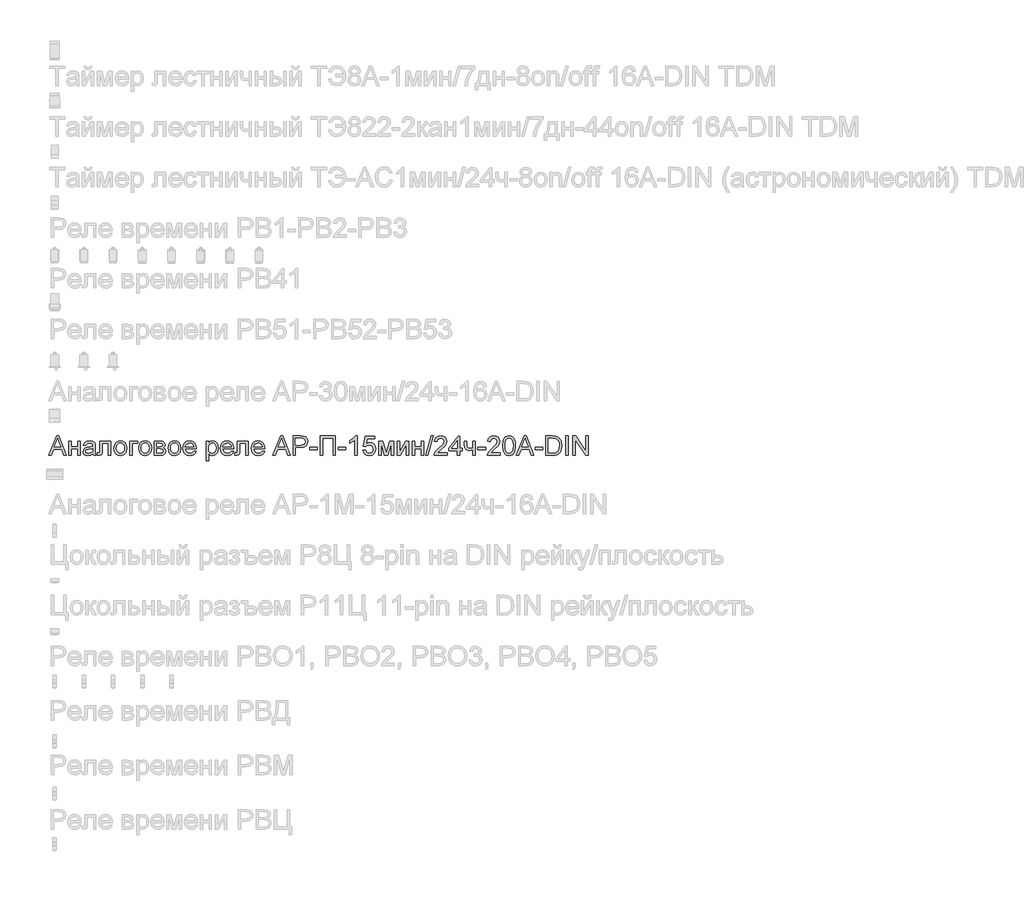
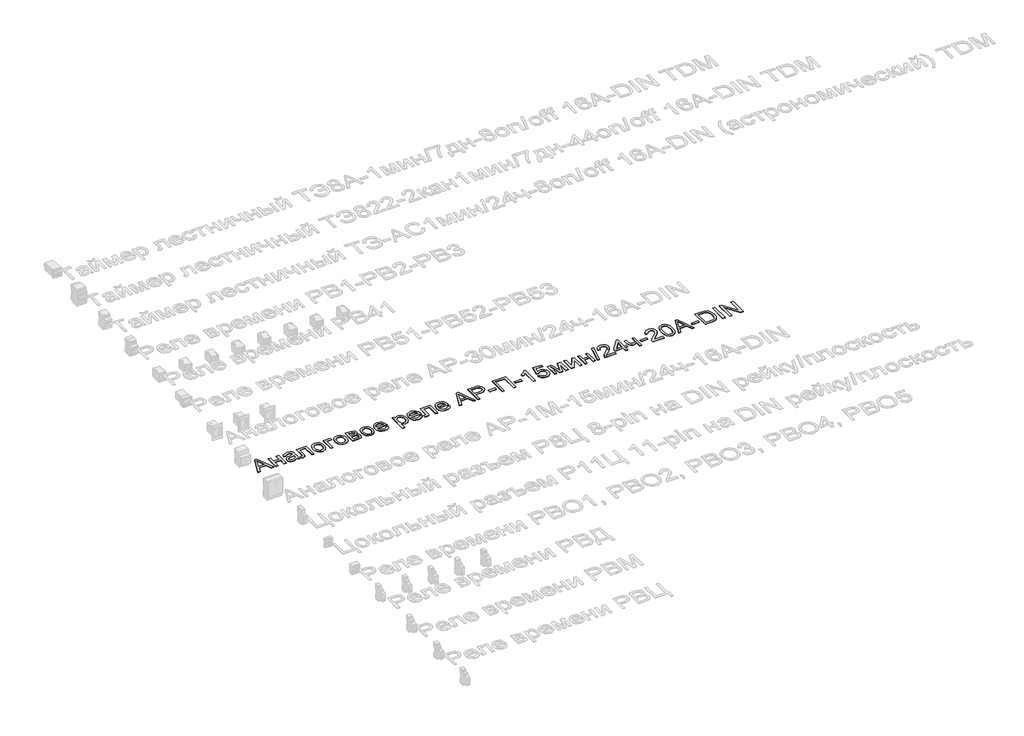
# One storey, part 24 of 34: 1 proxy.
"""IFC4 building model written with IfcOpenShell, lengths in millimetres."""

from ifc_helpers import new_model, si_unit, frame, origin, place, context, project, spatial, polyline, outline, extrude, element, save

model = new_model("IFC4")

# Units and contexts
model_context = context("Model", 3, world=origin())
ifc_project = project(units=[si_unit("LENGTHUNIT", "METRE", prefix="MILLI")], contexts=[model_context])

# Site, building, storey
site = spatial("IfcSite", under=ifc_project)
building = spatial("IfcBuilding", under=site)
storey = spatial("IfcBuildingStorey", under=building, Name="Этаж 01", Elevation=0.0)

# Proxy
placement = place(None, origin())
element("IfcBuildingElementProxy", 1, Name="Надпись на модели 1", ObjectType="Надпись на модели 1", at=placement, inside=storey, context=model_context, shape_type="SweptSolid", body=[
    extrude(outline(polyline([(-19050.7112385, 15676.235284), (-19010.612101, 15776.6915941), (-18999.9189977, 15776.6915941), (-18959.8198602, 15676.235284), (-18973.0881375, 15676.235284), (-18984.5905813, 15707.6278809), (-19025.965043, 15707.6278809), (-19037.4429612, 15676.235284), (-19050.7112385, 15676.235284)]), holes=[polyline([(-19021.3542553, 15720.1849197), (-18989.1768435, 15720.1849197), (-18998.2267405, 15744.8820643), (-19005.2655494, 15764.1345554), (-19011.5195433, 15747.0403053), (-19021.3542553, 15720.1849197)])]), frame((0.0, 0.0, 40.0), z_axis=(0.0, 0.0, 1.0), x_axis=(1.0, 0.0, 0.0)), (0.0, 0.0, 1.0), 2.0),
    extrude(outline(polyline([(-18947.97406, 15750.0078868), (-18935.4170212, 15750.0078868), (-18935.4170212, 15721.7545495), (-18902.4547945, 15721.7545495), (-18902.4547945, 15750.0078868), (-18889.8977557, 15750.0078868), (-18889.8977557, 15676.235284), (-18902.4547945, 15676.235284), (-18902.4547945, 15709.1975108), (-18935.4170212, 15709.1975108), (-18935.4170212, 15676.235284), (-18947.97406, 15676.235284), (-18947.97406, 15750.0078868)])), frame((0.0, 0.0, 40.0), z_axis=(0.0, 0.0, 1.0), x_axis=(1.0, 0.0, 0.0)), (0.0, 0.0, 1.0), 2.0),
    extrude(outline(polyline([(-18823.9733022, 15685.6530631), (-18836.1501962, 15677.1427262), (-18849.6024145, 15674.6656541), (-18860.0962484, 15676.1555762), (-18867.8370987, 15680.6253425), (-18872.6103676, 15687.4127653), (-18874.2014572, 15695.8556571), (-18871.7979615, 15705.7884709), (-18865.482654, 15712.998958), (-18856.6902743, 15717.1192364), (-18845.8254927, 15719.0076973), (-18824.0468786, 15723.3241794), (-18823.9733022, 15726.1200825), (-18827.4313929, 15735.3907088), (-18841.3128069, 15739.0204778), (-18854.0169984, 15736.6047194), (-18860.0747886, 15728.0330689), (-18872.6318274, 15729.6026988), (-18867.1994366, 15741.8654319), (-18856.2610786, 15749.0513936), (-18839.6941261, 15751.5775166), (-18824.4760742, 15749.3456992), (-18815.8798983, 15743.7416301), (-18812.0294001, 15735.2190306), (-18811.4162634, 15724.2316216), (-18811.4162634, 15708.6088996), (-18810.7786013, 15686.7934973), (-18808.2770037, 15676.235284), (-18820.8340425, 15676.235284), (-18823.9733022, 15685.6530631)]), holes=[polyline([(-18823.9733022, 15710.7671406), (-18844.2313374, 15706.9166424), (-18855.0348053, 15704.8810287), (-18859.9276358, 15701.5700907), (-18861.6444185, 15696.7385739), (-18857.9042849, 15689.9450197), (-18846.9291387, 15687.2226929), (-18834.2249471, 15690.2270625), (-18826.0334413, 15697.4988633), (-18824.0468786, 15707.210948), (-18823.9733022, 15710.7671406)])]), frame((0.0, 0.0, 40.0), z_axis=(0.0, 0.0, 1.0), x_axis=(1.0, 0.0, 0.0)), (0.0, 0.0, 1.0), 2.0),
    extrude(outline(polyline([(-18787.8718157, 15750.0078868), (-18731.3651412, 15750.0078868), (-18731.3651412, 15676.3088604), (-18743.92218, 15676.3088604), (-18743.92218, 15737.450848), (-18775.3147769, 15737.450848), (-18775.3147769, 15702.2568038), (-18776.1609055, 15686.0209451), (-18780.8084814, 15679.1660772), (-18791.7958903, 15676.235284), (-18801.9984843, 15676.8729461), (-18801.9984843, 15688.7923228), (-18796.3821525, 15688.7923228), (-18790.7045071, 15689.564875), (-18788.4359014, 15692.0174216), (-18787.8718157, 15702.9680423), (-18787.8718157, 15750.0078868)])), frame((0.0, 0.0, 40.0), z_axis=(0.0, 0.0, 1.0), x_axis=(1.0, 0.0, 0.0)), (0.0, 0.0, 1.0), 2.0),
    extrude(outline(polyline([(-18715.6688428, 15713.1215854), (-18712.9526474, 15730.9086798), (-18704.8040612, 15743.4105363), (-18694.7363573, 15749.5357715), (-18682.6820905, 15751.5775166), (-18669.4904553, 15749.0912475), (-18658.9537019, 15741.63244), (-18652.0467174, 15729.7897054), (-18649.7443892, 15714.151655), (-18653.8156167, 15691.8089551), (-18665.6736796, 15679.1660772), (-18682.6820905, 15674.6656541), (-18696.0331413, 15677.1427262), (-18706.557632, 15684.5739426), (-18713.3910401, 15696.6649975), (-18715.6688428, 15713.1215854)]), holes=[polyline([(-18703.111804, 15713.1461108), (-18701.6586701, 15701.7816229), (-18697.2992685, 15693.6851533), (-18690.7387062, 15688.838308), (-18682.6820905, 15687.2226929), (-18674.6622631, 15688.8475051), (-18668.1139635, 15693.7219415), (-18663.7545619, 15701.92571), (-18662.301428, 15713.5385183), (-18663.7637589, 15724.5719125), (-18668.1507517, 15732.5580175), (-18674.7082483, 15737.4048627), (-18682.6820905, 15739.0204778), (-18690.7387062, 15737.4109941), (-18697.2992685, 15732.5825429), (-18701.6586701, 15724.5044674), (-18703.111804, 15713.1461108)])]), frame((0.0, 0.0, 40.0), z_axis=(0.0, 0.0, 1.0), x_axis=(1.0, 0.0, 0.0)), (0.0, 0.0, 1.0), 2.0),
    extrude(outline(polyline([(-18635.6177206, 15750.0078868), (-18594.8073446, 15750.0078868), (-18594.8073446, 15737.450848), (-18623.0606819, 15737.450848), (-18623.0606819, 15676.235284), (-18635.6177206, 15676.235284), (-18635.6177206, 15750.0078868)])), frame((0.0, 0.0, 40.0), z_axis=(0.0, 0.0, 1.0), x_axis=(1.0, 0.0, 0.0)), (0.0, 0.0, 1.0), 2.0),
    extrude(outline(polyline([(-18588.5288253, 15713.1215854), (-18585.8126299, 15730.9086798), (-18577.6640437, 15743.4105363), (-18567.5963397, 15749.5357715), (-18555.542073, 15751.5775166), (-18542.3504378, 15749.0912475), (-18531.8136843, 15741.63244), (-18524.9066999, 15729.7897054), (-18522.6043717, 15714.151655), (-18526.6755991, 15691.8089551), (-18538.5336621, 15679.1660772), (-18555.542073, 15674.6656541), (-18568.8931238, 15677.1427262), (-18579.4176145, 15684.5739426), (-18586.2510226, 15696.6649975), (-18588.5288253, 15713.1215854)]), holes=[polyline([(-18575.9717865, 15713.1461108), (-18574.5186526, 15701.7816229), (-18570.159251, 15693.6851533), (-18563.5986887, 15688.838308), (-18555.542073, 15687.2226929), (-18547.5222455, 15688.8475051), (-18540.973946, 15693.7219415), (-18536.6145444, 15701.92571), (-18535.1614105, 15713.5385183), (-18536.6237414, 15724.5719125), (-18541.0107342, 15732.5580175), (-18547.5682308, 15737.4048627), (-18555.542073, 15739.0204778), (-18563.5986887, 15737.4109941), (-18570.159251, 15732.5825429), (-18574.5186526, 15724.5044674), (-18575.9717865, 15713.1461108)])]), frame((0.0, 0.0, 40.0), z_axis=(0.0, 0.0, 1.0), x_axis=(1.0, 0.0, 0.0)), (0.0, 0.0, 1.0), 2.0),
    extrude(outline(polyline([(-18508.4777031, 15750.0078868), (-18480.8129771, 15750.0078868), (-18465.6439761, 15748.3278923), (-18457.1091138, 15742.1720003), (-18453.5406585, 15731.4421087), (-18455.6988995, 15722.7233055), (-18462.1981481, 15716.5060997), (-18453.7613877, 15709.7002828), (-18450.4013988, 15697.8667453), (-18452.528983, 15688.2956821), (-18457.5873604, 15681.5573102), (-18465.5949252, 15677.5657905), (-18476.5700714, 15676.235284), (-18508.4777031, 15676.235284), (-18508.4777031, 15750.0078868)]), holes=[polyline([(-18495.9206643, 15688.7923228), (-18480.5186715, 15688.7923228), (-18466.8579867, 15691.0609284), (-18462.9584376, 15698.8968149), (-18465.1044159, 15704.9423424), (-18470.6962222, 15708.4617468), (-18481.7449448, 15709.1975108), (-18495.9206643, 15709.1975108), (-18495.9206643, 15688.7923228)]), polyline([(-18495.9206643, 15721.7545495), (-18483.5107784, 15721.7545495), (-18473.2713962, 15722.3922117), (-18468.2927265, 15724.9428602), (-18466.0976973, 15729.5536478), (-18469.9481955, 15735.7095399), (-18483.1183709, 15737.450848), (-18495.9206643, 15737.450848), (-18495.9206643, 15721.7545495)])]), frame((0.0, 0.0, 40.0), z_axis=(0.0, 0.0, 1.0), x_axis=(1.0, 0.0, 0.0)), (0.0, 0.0, 1.0), 2.0),
    extrude(outline(polyline([(-18437.84436, 15713.1215854), (-18435.1281646, 15730.9086798), (-18426.9795784, 15743.4105363), (-18416.9118745, 15749.5357715), (-18404.8576078, 15751.5775166), (-18391.6659726, 15749.0912475), (-18381.1292191, 15741.63244), (-18374.2222346, 15729.7897054), (-18371.9199065, 15714.151655), (-18375.9911339, 15691.8089551), (-18387.8491969, 15679.1660772), (-18404.8576078, 15674.6656541), (-18418.2086585, 15677.1427262), (-18428.7331493, 15684.5739426), (-18435.5665573, 15696.6649975), (-18437.84436, 15713.1215854)]), holes=[polyline([(-18425.2873213, 15713.1461108), (-18423.8341874, 15701.7816229), (-18419.4747857, 15693.6851533), (-18412.9142235, 15688.838308), (-18404.8576078, 15687.2226929), (-18396.8377803, 15688.8475051), (-18390.2894808, 15693.7219415), (-18385.9300791, 15701.92571), (-18384.4769453, 15713.5385183), (-18385.9392762, 15724.5719125), (-18390.326269, 15732.5580175), (-18396.8837655, 15737.4048627), (-18404.8576078, 15739.0204778), (-18412.9142235, 15737.4109941), (-18419.4747857, 15732.5825429), (-18423.8341874, 15724.5044674), (-18425.2873213, 15713.1461108)])]), frame((0.0, 0.0, 40.0), z_axis=(0.0, 0.0, 1.0), x_axis=(1.0, 0.0, 0.0)), (0.0, 0.0, 1.0), 2.0),
    extrude(outline(polyline([(-18306.1426058, 15698.2101018), (-18293.8308216, 15696.640472), (-18298.2668654, 15687.3637143), (-18305.3455281, 15680.4291387), (-18314.9073943, 15676.1065253), (-18326.7930484, 15674.6656541), (-18341.5267223, 15677.1519233), (-18352.8636191, 15684.6107308), (-18360.0925003, 15696.5576985), (-18362.5021274, 15712.5084487), (-18360.0679749, 15728.9956935), (-18352.7655173, 15741.3258717), (-18341.5819046, 15749.0146054), (-18327.5042869, 15751.5775166), (-18313.865062, 15749.0207367), (-18302.9665579, 15741.3503971), (-18295.8204501, 15729.0447444), (-18293.4384142, 15712.5820251), (-18293.5119906, 15709.1975108), (-18349.9450886, 15709.1975108), (-18347.7715192, 15699.7981258), (-18342.7223388, 15692.8880756), (-18335.4352096, 15688.6390386), (-18326.5477938, 15687.2226929), (-18314.2360096, 15689.8469178), (-18306.1426058, 15698.2101018)]), holes=[polyline([(-18349.9450886, 15721.7545495), (-18305.995453, 15721.7545495), (-18311.0231736, 15733.1343659), (-18318.3440253, 15737.5489499), (-18327.5533379, 15739.0204778), (-18343.0166444, 15734.323851), (-18347.8818838, 15728.8332123), (-18349.9450886, 15721.7545495)])]), frame((0.0, 0.0, 40.0), z_axis=(0.0, 0.0, 1.0), x_axis=(1.0, 0.0, 0.0)), (0.0, 0.0, 1.0), 2.0),
    extrude(outline(polyline([(-18241.6406293, 15647.9819468), (-18241.6406293, 15750.0078868), (-18229.0835905, 15750.0078868), (-18229.0835905, 15737.6961027), (-18220.4015754, 15748.1071631), (-18208.6784025, 15751.5775166), (-18192.7613748, 15746.7214743), (-18182.3625771, 15733.036264), (-18178.8554354, 15713.6856711), (-18182.8162982, 15693.3417968), (-18194.318742, 15679.4849083), (-18210.1989814, 15674.6656541), (-18221.1250767, 15677.890753), (-18229.0835905, 15686.0454705), (-18229.0835905, 15647.9819468), (-18241.6406293, 15647.9819468)]), holes=[polyline([(-18229.0835905, 15712.5329742), (-18227.7254928, 15701.2757851), (-18223.6511997, 15693.4031104), (-18217.6393948, 15688.7677973), (-18210.4687615, 15687.2226929), (-18203.1816324, 15688.8229796), (-18197.0165432, 15693.6238396), (-18192.8134915, 15701.7846886), (-18191.4124742, 15713.4649419), (-18192.7797689, 15724.6608173), (-18196.8816532, 15732.6438566), (-18202.8842611, 15737.4263225), (-18209.9537267, 15739.0204778), (-18217.0507836, 15737.325155), (-18223.2833177, 15732.2391864), (-18227.6335223, 15723.9219876), (-18229.0835905, 15712.5329742)])]), frame((0.0, 0.0, 40.0), z_axis=(0.0, 0.0, 1.0), x_axis=(1.0, 0.0, 0.0)), (0.0, 0.0, 1.0), 2.0),
    extrude(outline(polyline([(-18113.0781347, 15698.2101018), (-18100.7663506, 15696.640472), (-18105.2023943, 15687.3637143), (-18112.281057, 15680.4291387), (-18121.8429232, 15676.1065253), (-18133.7285773, 15674.6656541), (-18148.4622513, 15677.1519233), (-18159.7991481, 15684.6107308), (-18167.0280293, 15696.5576985), (-18169.4376563, 15712.5084487), (-18167.0035038, 15728.9956935), (-18159.7010462, 15741.3258717), (-18148.5174336, 15749.0146054), (-18134.4398159, 15751.5775166), (-18120.8005909, 15749.0207367), (-18109.9020868, 15741.3503971), (-18102.755979, 15729.0447444), (-18100.3739431, 15712.5820251), (-18100.4475195, 15709.1975108), (-18156.8806176, 15709.1975108), (-18154.7070481, 15699.7981258), (-18149.6578677, 15692.8880756), (-18142.3707385, 15688.6390386), (-18133.4833227, 15687.2226929), (-18121.1715386, 15689.8469178), (-18113.0781347, 15698.2101018)]), holes=[polyline([(-18156.8806176, 15721.7545495), (-18112.9309819, 15721.7545495), (-18117.9587025, 15733.1343659), (-18125.2795542, 15737.5489499), (-18134.4888668, 15739.0204778), (-18149.9521733, 15734.323851), (-18154.8174127, 15728.8332123), (-18156.8806176, 15721.7545495)])]), frame((0.0, 0.0, 40.0), z_axis=(0.0, 0.0, 1.0), x_axis=(1.0, 0.0, 0.0)), (0.0, 0.0, 1.0), 2.0),
    extrude(outline(polyline([(-18081.538385, 15750.0078868), (-18025.0317105, 15750.0078868), (-18025.0317105, 15676.3088604), (-18037.5887493, 15676.3088604), (-18037.5887493, 15737.450848), (-18068.9813462, 15737.450848), (-18068.9813462, 15702.2568038), (-18069.8274748, 15686.0209451), (-18074.4750507, 15679.1660772), (-18085.4624596, 15676.235284), (-18095.6650536, 15676.8729461), (-18095.6650536, 15688.7923228), (-18090.0487218, 15688.7923228), (-18084.3710763, 15689.564875), (-18082.1024707, 15692.0174216), (-18081.538385, 15702.9680423), (-18081.538385, 15750.0078868)])), frame((0.0, 0.0, 40.0), z_axis=(0.0, 0.0, 1.0), x_axis=(1.0, 0.0, 0.0)), (0.0, 0.0, 1.0), 2.0),
    extrude(outline(polyline([(-17954.5455202, 15698.2101018), (-17942.2337361, 15696.640472), (-17946.6697798, 15687.3637143), (-17953.7484426, 15680.4291387), (-17963.3103088, 15676.1065253), (-17975.1959629, 15674.6656541), (-17989.9296368, 15677.1519233), (-18001.2665336, 15684.6107308), (-18008.4954148, 15696.5576985), (-18010.9050419, 15712.5084487), (-18008.4708894, 15728.9956935), (-18001.1684318, 15741.3258717), (-17989.9848191, 15749.0146054), (-17975.9072014, 15751.5775166), (-17962.2679764, 15749.0207367), (-17951.3694723, 15741.3503971), (-17944.2233646, 15729.0447444), (-17941.8413287, 15712.5820251), (-17941.9149051, 15709.1975108), (-17998.3480031, 15709.1975108), (-17996.1744337, 15699.7981258), (-17991.1252533, 15692.8880756), (-17983.8381241, 15688.6390386), (-17974.9507082, 15687.2226929), (-17962.6389241, 15689.8469178), (-17954.5455202, 15698.2101018)]), holes=[polyline([(-17998.3480031, 15721.7545495), (-17954.3983674, 15721.7545495), (-17959.426088, 15733.1343659), (-17966.7469397, 15737.5489499), (-17975.9562523, 15739.0204778), (-17991.4195589, 15734.323851), (-17996.2847983, 15728.8332123), (-17998.3480031, 15721.7545495)])]), frame((0.0, 0.0, 40.0), z_axis=(0.0, 0.0, 1.0), x_axis=(1.0, 0.0, 0.0)), (0.0, 0.0, 1.0), 2.0),
    extrude(outline(polyline([(-17900.1725613, 15676.235284), (-17860.0734239, 15776.6915941), (-17849.3803205, 15776.6915941), (-17809.2811831, 15676.235284), (-17822.5494604, 15676.235284), (-17834.0519041, 15707.6278809), (-17875.4263658, 15707.6278809), (-17886.904284, 15676.235284), (-17900.1725613, 15676.235284)]), holes=[polyline([(-17870.8155781, 15720.1849197), (-17838.6381663, 15720.1849197), (-17847.6880634, 15744.8820643), (-17854.7268722, 15764.1345554), (-17860.9808661, 15747.0403053), (-17870.8155781, 15720.1849197)])]), frame((0.0, 0.0, 40.0), z_axis=(0.0, 0.0, 1.0), x_axis=(1.0, 0.0, 0.0)), (0.0, 0.0, 1.0), 2.0),
    extrude(outline(polyline([(-17795.865753, 15676.235284), (-17795.865753, 15776.6915941), (-17758.6360951, 15776.6915941), (-17743.6265097, 15775.735101), (-17731.4250902, 15771.0384742), (-17723.5156273, 15761.3263895), (-17720.5235204, 15747.6289165), (-17722.5438057, 15735.7892476), (-17728.6046615, 15725.9238788), (-17739.9384927, 15719.2652147), (-17757.7777037, 15717.04566), (-17783.3087142, 15717.04566), (-17783.3087142, 15676.235284), (-17795.865753, 15676.235284)]), holes=[polyline([(-17783.3087142, 15729.6026988), (-17757.0419398, 15729.6026988), (-17738.5497381, 15734.2134864), (-17734.4478539, 15739.7623732), (-17733.0805591, 15747.1874581), (-17736.305658, 15757.5862559), (-17744.7792066, 15763.2761641), (-17757.3362453, 15764.1345554), (-17783.3087142, 15764.1345554), (-17783.3087142, 15729.6026988)])]), frame((0.0, 0.0, 40.0), z_axis=(0.0, 0.0, 1.0), x_axis=(1.0, 0.0, 0.0)), (0.0, 0.0, 1.0), 2.0),
    extrude(outline(polyline([(-17711.1057413, 15706.0582511), (-17711.1057413, 15718.6152898), (-17671.8649951, 15718.6152898), (-17671.8649951, 15706.0582511), (-17711.1057413, 15706.0582511)])), frame((0.0, 0.0, 40.0), z_axis=(0.0, 0.0, 1.0), x_axis=(1.0, 0.0, 0.0)), (0.0, 0.0, 1.0), 2.0),
    extrude(outline(polyline([(-17656.1686967, 15776.6915941), (-17577.6872044, 15776.6915941), (-17577.6872044, 15676.235284), (-17590.2442431, 15676.235284), (-17590.2442431, 15764.1345554), (-17643.6116579, 15764.1345554), (-17643.6116579, 15676.235284), (-17656.1686967, 15676.235284), (-17656.1686967, 15776.6915941)])), frame((0.0, 0.0, 40.0), z_axis=(0.0, 0.0, 1.0), x_axis=(1.0, 0.0, 0.0)), (0.0, 0.0, 1.0), 2.0),
    extrude(outline(polyline([(-17563.5605358, 15706.0582511), (-17563.5605358, 15718.6152898), (-17524.3197896, 15718.6152898), (-17524.3197896, 15706.0582511), (-17563.5605358, 15706.0582511)])), frame((0.0, 0.0, 40.0), z_axis=(0.0, 0.0, 1.0), x_axis=(1.0, 0.0, 0.0)), (0.0, 0.0, 1.0), 2.0),
    extrude(outline(polyline([(-17466.2434853, 15676.235284), (-17478.8005241, 15676.235284), (-17478.8005241, 15754.5205726), (-17490.6953752, 15746.0470239), (-17503.9146016, 15739.7071909), (-17503.9146016, 15751.5775166), (-17485.5082391, 15763.325215), (-17474.3368892, 15776.6915941), (-17466.2434853, 15776.6915941), (-17466.2434853, 15676.235284)])), frame((0.0, 0.0, 40.0), z_axis=(0.0, 0.0, 1.0), x_axis=(1.0, 0.0, 0.0)), (0.0, 0.0, 1.0), 2.0),
    extrude(outline(polyline([(-17436.4205182, 15702.9189914), (-17423.8634795, 15704.4886212), (-17417.5359091, 15691.5514377), (-17404.4147846, 15687.2226929), (-17395.4139385, 15688.7279434), (-17388.6694352, 15693.2436949), (-17384.4571864, 15700.2487812), (-17383.0531035, 15709.2220362), (-17388.313816, 15724.1335198), (-17394.9203635, 15728.235404), (-17404.2185809, 15729.6026988), (-17415.242778, 15727.4199323), (-17422.2938496, 15721.7545495), (-17434.8508884, 15723.3241794), (-17423.8634795, 15775.1219643), (-17375.2049542, 15775.1219643), (-17375.2049542, 15762.5649255), (-17413.7099364, 15762.5649255), (-17419.0810135, 15734.9001995), (-17410.1108242, 15740.344853), (-17400.7114392, 15742.1597375), (-17388.9790693, 15739.909526), (-17379.2393934, 15733.1588914), (-17372.6818969, 15722.8704582), (-17370.4960647, 15710.0068512), (-17372.4642334, 15697.4498124), (-17378.3687394, 15686.7076581), (-17389.6749794, 15677.6761551), (-17404.4638356, 15674.6656541), (-17416.7970795, 15676.6001003), (-17426.6225944, 15682.4034388), (-17433.3579006, 15691.4012192), (-17436.4205182, 15702.9189914)])), frame((0.0, 0.0, 40.0), z_axis=(0.0, 0.0, 1.0), x_axis=(1.0, 0.0, 0.0)), (0.0, 0.0, 1.0), 2.0),
    extrude(outline(polyline([(-17356.3693961, 15750.0078868), (-17334.7624602, 15750.0078868), (-17318.1096686, 15690.9505638), (-17300.1570272, 15750.0078868), (-17279.4575336, 15750.0078868), (-17279.4575336, 15676.235284), (-17292.0145724, 15676.235284), (-17292.0145724, 15735.6359635), (-17310.0653156, 15676.235284), (-17326.546429, 15676.235284), (-17343.8123573, 15738.4809176), (-17343.8123573, 15676.235284), (-17356.3693961, 15676.235284), (-17356.3693961, 15750.0078868)])), frame((0.0, 0.0, 40.0), z_axis=(0.0, 0.0, 1.0), x_axis=(1.0, 0.0, 0.0)), (0.0, 0.0, 1.0), 2.0),
    extrude(outline(polyline([(-17260.6219755, 15750.0078868), (-17248.0649367, 15750.0078868), (-17248.0649367, 15693.746467), (-17217.2119, 15750.0078868), (-17200.9760413, 15750.0078868), (-17200.9760413, 15676.235284), (-17213.5330801, 15676.235284), (-17213.5330801, 15732.1533473), (-17244.189913, 15676.235284), (-17260.6219755, 15676.235284), (-17260.6219755, 15750.0078868)])), frame((0.0, 0.0, 40.0), z_axis=(0.0, 0.0, 1.0), x_axis=(1.0, 0.0, 0.0)), (0.0, 0.0, 1.0), 2.0),
    extrude(outline(polyline([(-17182.1404832, 15750.0078868), (-17169.5834444, 15750.0078868), (-17169.5834444, 15721.7545495), (-17136.6212176, 15721.7545495), (-17136.6212176, 15750.0078868), (-17124.0641789, 15750.0078868), (-17124.0641789, 15676.235284), (-17136.6212176, 15676.235284), (-17136.6212176, 15709.1975108), (-17169.5834444, 15709.1975108), (-17169.5834444, 15676.235284), (-17182.1404832, 15676.235284), (-17182.1404832, 15750.0078868)])), frame((0.0, 0.0, 40.0), z_axis=(0.0, 0.0, 1.0), x_axis=(1.0, 0.0, 0.0)), (0.0, 0.0, 1.0), 2.0),
    extrude(outline(polyline([(-17114.6463998, 15676.235284), (-17086.3930625, 15776.6915941), (-17075.0622971, 15776.6915941), (-17103.3156343, 15676.235284), (-17114.6463998, 15676.235284)])), frame((0.0, 0.0, 40.0), z_axis=(0.0, 0.0, 1.0), x_axis=(1.0, 0.0, 0.0)), (0.0, 0.0, 1.0), 2.0),
    extrude(outline(polyline([(-17004.7723105, 15688.7923228), (-17004.7723105, 15676.235284), (-17070.6967641, 15676.235284), (-17069.3478634, 15684.8927736), (-17061.7204434, 15698.2223646), (-17045.9996195, 15712.7782288), (-17024.3191072, 15733.6984516), (-17018.8989792, 15747.9232221), (-17024.0125389, 15759.4379286), (-17037.3666553, 15764.1345554), (-17051.2848575, 15759.5482932), (-17056.5700955, 15746.8686271), (-17069.1271342, 15748.4382569), (-17066.0829107, 15760.5844941), (-17059.5008887, 15769.4565816), (-17049.7244247, 15774.882841), (-17037.0968752, 15776.6915941), (-17024.3773552, 15774.6805059), (-17014.6192853, 15768.6472412), (-17008.4112766, 15759.6341323), (-17006.3419404, 15748.6835116), (-17008.5737578, 15736.7763977), (-17015.9927114, 15724.4646136), (-17033.982141, 15707.2599989), (-17048.4276406, 15695.1812067), (-17054.0930234, 15688.7923228), (-17004.7723105, 15688.7923228)])), frame((0.0, 0.0, 40.0), z_axis=(0.0, 0.0, 1.0), x_axis=(1.0, 0.0, 0.0)), (0.0, 0.0, 1.0), 2.0),
    extrude(outline(polyline([(-16951.4048958, 15676.235284), (-16951.4048958, 15699.7797317), (-16996.9241613, 15699.7797317), (-16996.9241613, 15712.3367705), (-16948.2656361, 15775.1219643), (-16938.847857, 15775.1219643), (-16938.847857, 15712.3367705), (-16926.2908182, 15712.3367705), (-16926.2908182, 15699.7797317), (-16938.847857, 15699.7797317), (-16938.847857, 15676.235284), (-16951.4048958, 15676.235284)]), holes=[polyline([(-16951.4048958, 15712.3367705), (-16951.4048958, 15751.1360582), (-16981.4731175, 15712.3367705), (-16951.4048958, 15712.3367705)])]), frame((0.0, 0.0, 40.0), z_axis=(0.0, 0.0, 1.0), x_axis=(1.0, 0.0, 0.0)), (0.0, 0.0, 1.0), 2.0),
    extrude(outline(polyline([(-16916.8730392, 15750.0078868), (-16904.3160004, 15750.0078868), (-16904.3160004, 15735.8566927), (-16903.2981935, 15722.5884154), (-16898.405363, 15715.4024537), (-16888.6932783, 15712.3367705), (-16871.3537736, 15716.1382177), (-16871.3537736, 15750.0078868), (-16858.7967349, 15750.0078868), (-16858.7967349, 15676.235284), (-16871.3537736, 15676.235284), (-16871.3537736, 15704.0962138), (-16892.0532672, 15699.7797317), (-16906.2903004, 15704.2801548), (-16914.6657472, 15715.3043519), (-16916.8730392, 15729.6517497), (-16916.8730392, 15750.0078868)])), frame((0.0, 0.0, 40.0), z_axis=(0.0, 0.0, 1.0), x_axis=(1.0, 0.0, 0.0)), (0.0, 0.0, 1.0), 2.0),
    extrude(outline(polyline([(-16846.2396961, 15706.0582511), (-16846.2396961, 15718.6152898), (-16806.9989499, 15718.6152898), (-16806.9989499, 15706.0582511), (-16846.2396961, 15706.0582511)])), frame((0.0, 0.0, 40.0), z_axis=(0.0, 0.0, 1.0), x_axis=(1.0, 0.0, 0.0)), (0.0, 0.0, 1.0), 2.0),
    extrude(outline(polyline([(-16731.6567173, 15688.7923228), (-16731.6567173, 15676.235284), (-16797.5811709, 15676.235284), (-16796.2322702, 15684.8927736), (-16788.6048502, 15698.2223646), (-16772.8840263, 15712.7782288), (-16751.203514, 15733.6984516), (-16745.7833859, 15747.9232221), (-16750.8969457, 15759.4379286), (-16764.2510621, 15764.1345554), (-16778.1692643, 15759.5482932), (-16783.4545022, 15746.8686271), (-16796.011541, 15748.4382569), (-16792.9673175, 15760.5844941), (-16786.3852955, 15769.4565816), (-16776.6088315, 15774.882841), (-16763.981282, 15776.6915941), (-16751.261762, 15774.6805059), (-16741.5036921, 15768.6472412), (-16735.2956834, 15759.6341323), (-16733.2263472, 15748.6835116), (-16735.4581646, 15736.7763977), (-16742.8771182, 15724.4646136), (-16760.8665477, 15707.2599989), (-16775.3120474, 15695.1812067), (-16780.9774301, 15688.7923228), (-16731.6567173, 15688.7923228)])), frame((0.0, 0.0, 40.0), z_axis=(0.0, 0.0, 1.0), x_axis=(1.0, 0.0, 0.0)), (0.0, 0.0, 1.0), 2.0),
    extrude(outline(polyline([(-16719.0996786, 15725.6540987), (-16715.4085959, 15754.5573608), (-16704.4457124, 15771.2224151), (-16686.1374518, 15776.6915941), (-16671.4712229, 15773.4542326), (-16661.3422053, 15764.1222926), (-16655.4560934, 15749.25986), (-16653.175225, 15725.6540987), (-16656.8295195, 15696.8734639), (-16667.7556148, 15680.1716213), (-16675.9869744, 15676.0421459), (-16686.1374518, 15674.6656541), (-16699.1849999, 15677.0568871), (-16709.0932883, 15684.230586), (-16716.598081, 15701.2206028), (-16719.0996786, 15725.6540987)]), holes=[polyline([(-16706.5426398, 15725.6786241), (-16705.0711118, 15705.9264267), (-16700.6565279, 15694.4944937), (-16694.0837029, 15689.0406431), (-16686.1374518, 15687.2226929), (-16678.1912007, 15689.0467745), (-16671.6183757, 15694.5190192), (-16667.2037918, 15705.9570835), (-16665.7322638, 15725.6786241), (-16667.1547408, 15744.9862975), (-16671.422172, 15756.5071353), (-16677.9827342, 15762.2277004), (-16686.2846046, 15764.1345554), (-16694.1450166, 15762.4545609), (-16700.4603241, 15757.4145776), (-16705.0220609, 15745.1763699), (-16706.5426398, 15725.6786241)])]), frame((0.0, 0.0, 40.0), z_axis=(0.0, 0.0, 1.0), x_axis=(1.0, 0.0, 0.0)), (0.0, 0.0, 1.0), 2.0),
    extrude(outline(polyline([(-16649.177574, 15676.235284), (-16609.0784365, 15776.6915941), (-16598.3853332, 15776.6915941), (-16558.2861957, 15676.235284), (-16571.554473, 15676.235284), (-16583.0569167, 15707.6278809), (-16624.4313785, 15707.6278809), (-16635.9092967, 15676.235284), (-16649.177574, 15676.235284)]), holes=[polyline([(-16619.8205908, 15720.1849197), (-16587.6431789, 15720.1849197), (-16596.693076, 15744.8820643), (-16603.7318849, 15764.1345554), (-16609.9858788, 15747.0403053), (-16619.8205908, 15720.1849197)])]), frame((0.0, 0.0, 40.0), z_axis=(0.0, 0.0, 1.0), x_axis=(1.0, 0.0, 0.0)), (0.0, 0.0, 1.0), 2.0),
    extrude(outline(polyline([(-16552.7189149, 15706.0582511), (-16552.7189149, 15718.6152898), (-16513.4781687, 15718.6152898), (-16513.4781687, 15706.0582511), (-16552.7189149, 15706.0582511)])), frame((0.0, 0.0, 40.0), z_axis=(0.0, 0.0, 1.0), x_axis=(1.0, 0.0, 0.0)), (0.0, 0.0, 1.0), 2.0),
    extrude(outline(polyline([(-16497.7818703, 15676.235284), (-16497.7818703, 15776.6915941), (-16463.1273863, 15776.6915941), (-16445.1992704, 15775.2445916), (-16430.4349397, 15768.05863), (-16418.5400885, 15750.8908035), (-16414.5914884, 15727.0029993), (-16417.2647643, 15706.7327014), (-16424.1318948, 15692.1032607), (-16433.3044192, 15682.99205), (-16445.309635, 15677.9520666), (-16461.4596546, 15676.235284), (-16497.7818703, 15676.235284)]), holes=[polyline([(-16485.2248315, 15688.7923228), (-16463.004759, 15688.7923228), (-16446.8424767, 15690.6072073), (-16437.5227995, 15695.7330297), (-16429.8831167, 15708.2042294), (-16427.1485272, 15727.1992031), (-16428.4882308, 15740.8844133), (-16432.5073416, 15750.9889054), (-16445.5426269, 15762.1234671), (-16463.3481155, 15764.1345554), (-16485.2248315, 15764.1345554), (-16485.2248315, 15688.7923228)])]), frame((0.0, 0.0, 40.0), z_axis=(0.0, 0.0, 1.0), x_axis=(1.0, 0.0, 0.0)), (0.0, 0.0, 1.0), 2.0),
    extrude(outline(polyline([(-16395.7559303, 15676.235284), (-16395.7559303, 15776.6915941), (-16383.1988915, 15776.6915941), (-16383.1988915, 15676.235284), (-16395.7559303, 15676.235284)])), frame((0.0, 0.0, 40.0), z_axis=(0.0, 0.0, 1.0), x_axis=(1.0, 0.0, 0.0)), (0.0, 0.0, 1.0), 2.0),
    extrude(outline(polyline([(-16358.084814, 15676.235284), (-16358.084814, 15776.6915941), (-16344.6448584, 15776.6915941), (-16292.1603604, 15697.1064559), (-16292.1603604, 15776.6915941), (-16279.6033217, 15776.6915941), (-16279.6033217, 15676.235284), (-16293.0432772, 15676.235284), (-16345.5277752, 15755.8449477), (-16345.5277752, 15676.235284), (-16358.084814, 15676.235284)])), frame((0.0, 0.0, 40.0), z_axis=(0.0, 0.0, 1.0), x_axis=(1.0, 0.0, 0.0)), (0.0, 0.0, 1.0), 2.0),
])

save(model, "model.ifc")
